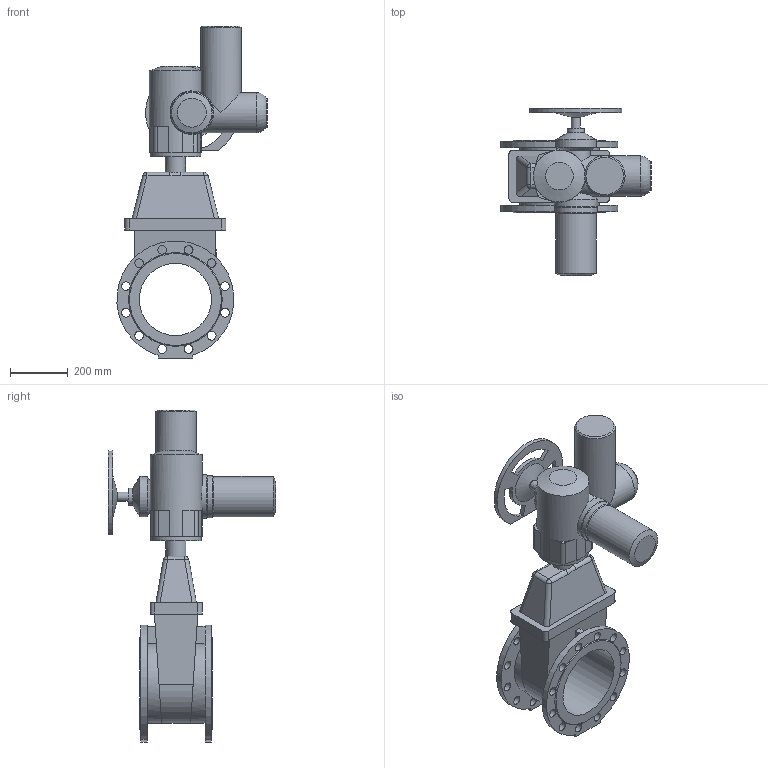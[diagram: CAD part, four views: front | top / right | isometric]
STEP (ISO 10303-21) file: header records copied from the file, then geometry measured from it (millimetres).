
FILE_DESCRIPTION(('STEP AP203'), '1');
FILE_NAME('青溻桄赅 47GVA DN250 PN10_PN16+MT903.A30', '', ('UNSPECIFIED'), ('UNSPECIFIED'), 'ASCON STEP Converter 1.6', 'ASCON Math Kernel', '');
FILE_SCHEMA(('CONFIG_CONTROL_DESIGN'));
Length unit declared in the file: millimetre
Bounding box: 519.07 x 578 x 1148.5 mm (x, y, z)
Volume: 39420078.8 mm3; surface area: 1852031.7 mm2
Topology: 2 solids, 2 shells, 204 faces, 511 edges, 328 vertices
Faces by surface type: cylinder 94, plane 91, cone 11, bspline 7, torus 1
Full cylindrical faces by diameter (mm): 14 x4, 18 x4, 30 x25, 32 x1, 60 x1, 70 x1, 100 x3, 140 x4, 147 x1, 151 x1, 175 x1, 250 x1
Entity records: 9406 total; most frequent: CARTESIAN_POINT 2927, DIRECTION 991, ORIENTED_EDGE 898, EDGE_CURVE 449, AXIS2_PLACEMENT_3D 390, EDGE_LOOP 347, VERTEX_POINT 328, FACE_BOUND 237
